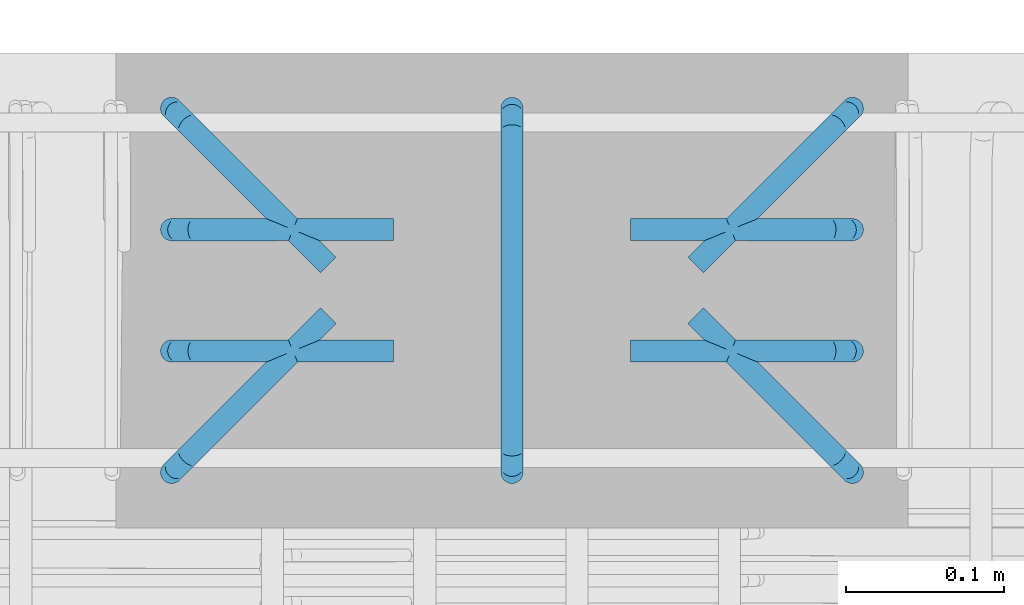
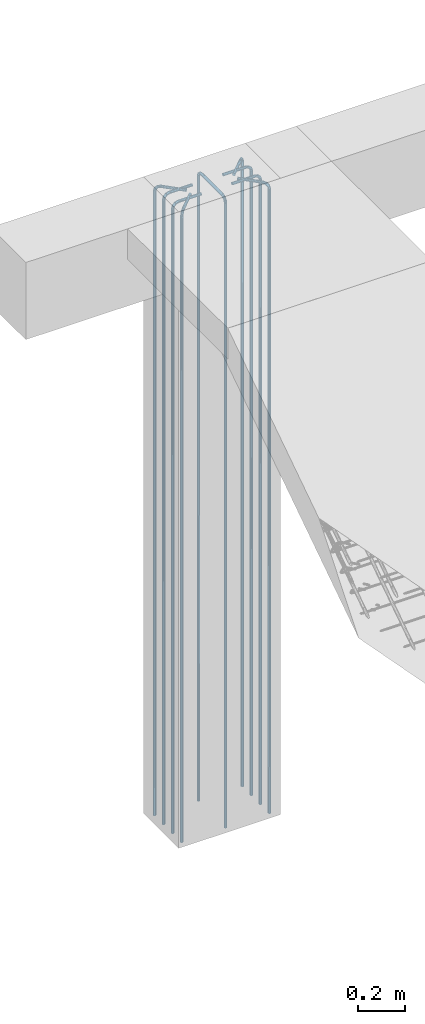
# One storey, part 7 of 24: 1 reinforcing bar.
"""IFC2X3 building model written with IfcOpenShell, lengths in metres."""

from ifc_helpers import new_model, entity, si_unit, direction, frame, origin, place, context, subcontext, project, spatial, shape, source, transform, mapped, element, save


model = new_model("IFC2X3")

# Units and contexts
model_context = context("Model", 3, precision=0.0, world=origin(), true_north=direction((0.0, 1.0)))
plan_context = context("Plan", 3, precision=0.0, world=origin(), true_north=direction((0.0, 1.0)))
body_context = subcontext(model_context, "Body", "Model", "MODEL_VIEW", scale=1.0)
ifc_project = project(units=[si_unit("LENGTHUNIT", "METRE"), si_unit("AREAUNIT", "SQUARE_METRE"), si_unit("VOLUMEUNIT", "CUBIC_METRE"), si_unit("PLANEANGLEUNIT", "RADIAN"), si_unit("THERMODYNAMICTEMPERATUREUNIT", "DEGREE_CELSIUS"), si_unit("FORCEUNIT", "NEWTON"), si_unit("MASSUNIT", "GRAM", prefix="KILO")], contexts=[model_context, plan_context])

# Site, building, storey
placement = place(None, origin())
site = spatial("IfcSite", under=ifc_project, at=placement, Name="Default Site", CompositionType="ELEMENT")
building = spatial("IfcBuilding", under=site, at=placement, Name="Default Building", CompositionType="ELEMENT")
storey_placement = place(placement, frame((0.0, 0.0, 3.3), z_axis=(1.0, 0.0, 0.0), x_axis=(0.0, 0.0, 1.0)))
storey = spatial("IfcBuildingStorey", under=building, at=storey_placement, Name="Piano 2", CompositionType="ELEMENT", Elevation=3.3)

# Reinforcing bar
shared_shape_1 = source(origin(), body_context, None, "AdvancedSweptSolid", [
    entity("IfcSweptDiskSolid", entity("IfcCompositeCurve", [entity("IfcCompositeCurveSegment", "CONTINUOUS", True, entity("IfcPolyline", [entity("IfcCartesianPoint", [0.0, 0.0, 0.0]), entity("IfcCartesianPoint", [0.0, 0.0, 3.237]), entity("IfcCartesianPoint", [0.002653, 0.002653, 3.251]), entity("IfcCartesianPoint", [0.009899, 0.009899, 3.261249]), entity("IfcCartesianPoint", [0.019799, 0.019799, 3.265]), entity("IfcCartesianPoint", [0.098995, 0.098995, 3.265])]))], False), 0.007, 0.0, 0.0),
])
shared_shape_2 = source(origin(), body_context, None, "MappedRepresentation", [mapped(shared_shape_1, transform((-4.215, 4.885, 0.0)))])
shared_shape_3 = source(origin(), body_context, None, "AdvancedSweptSolid", [
    entity("IfcSweptDiskSolid", entity("IfcCompositeCurve", [entity("IfcCompositeCurveSegment", "CONTINUOUS", True, entity("IfcPolyline", [entity("IfcCartesianPoint", [0.0, 0.0, 0.0]), entity("IfcCartesianPoint", [0.0, 0.0, 3.237]), entity("IfcCartesianPoint", [-0.002653, 0.002653, 3.251]), entity("IfcCartesianPoint", [-0.009899, 0.009899, 3.261249]), entity("IfcCartesianPoint", [-0.019799, 0.019799, 3.265]), entity("IfcCartesianPoint", [-0.098995, 0.098995, 3.265])]))], False), 0.007, 0.0, 0.0),
])
shared_shape_4 = source(origin(), body_context, None, "MappedRepresentation", [mapped(shared_shape_3, transform((-3.785, 4.885, 0.0)))])
shared_shape_5 = source(origin(), body_context, None, "AdvancedSweptSolid", [
    entity("IfcSweptDiskSolid", entity("IfcCompositeCurve", [entity("IfcCompositeCurveSegment", "CONTINUOUS", True, entity("IfcPolyline", [entity("IfcCartesianPoint", [0.0, 0.0, 0.0]), entity("IfcCartesianPoint", [0.0, 0.0, 3.237]), entity("IfcCartesianPoint", [-0.002653, -0.002653, 3.251]), entity("IfcCartesianPoint", [-0.009899, -0.009899, 3.261249]), entity("IfcCartesianPoint", [-0.019799, -0.019799, 3.265]), entity("IfcCartesianPoint", [-0.098995, -0.098995, 3.265])]))], False), 0.007, 0.0, 0.0),
])
shared_shape_6 = source(origin(), body_context, None, "MappedRepresentation", [mapped(shared_shape_5, transform((-3.785, 5.115, 0.0)))])
shared_shape_7 = source(origin(), body_context, None, "AdvancedSweptSolid", [
    entity("IfcSweptDiskSolid", entity("IfcCompositeCurve", [entity("IfcCompositeCurveSegment", "CONTINUOUS", True, entity("IfcPolyline", [entity("IfcCartesianPoint", [0.0, 0.0, 0.0]), entity("IfcCartesianPoint", [0.0, 0.0, 3.237]), entity("IfcCartesianPoint", [0.002653, -0.002653, 3.251]), entity("IfcCartesianPoint", [0.009899, -0.009899, 3.261249]), entity("IfcCartesianPoint", [0.019799, -0.019799, 3.265]), entity("IfcCartesianPoint", [0.098995, -0.098995, 3.265])]))], False), 0.007, 0.0, 0.0),
])
shared_shape_8 = source(origin(), body_context, None, "MappedRepresentation", [mapped(shared_shape_7, transform((-4.215, 5.115, 0.0)))])
shared_shape_9 = source(origin(), body_context, None, "AdvancedSweptSolid", [
    entity("IfcSweptDiskSolid", entity("IfcCompositeCurve", [entity("IfcCompositeCurveSegment", "CONTINUOUS", True, entity("IfcPolyline", [entity("IfcCartesianPoint", [0.0, 0.0, 0.0]), entity("IfcCartesianPoint", [0.0, 0.0, 3.237]), entity("IfcCartesianPoint", [0.0, 0.003751, 3.251]), entity("IfcCartesianPoint", [0.0, 0.014, 3.261249]), entity("IfcCartesianPoint", [0.0, 0.028, 3.265]), entity("IfcCartesianPoint", [0.0, 0.14, 3.265])]))], False), 0.007, 0.0, 0.0),
])
shared_shape_10 = source(origin(), body_context, None, "MappedRepresentation", [mapped(shared_shape_9, transform((-4.0, 4.885, 0.0)))])
shared_shape_11 = source(origin(), body_context, None, "AdvancedSweptSolid", [
    entity("IfcSweptDiskSolid", entity("IfcCompositeCurve", [entity("IfcCompositeCurveSegment", "CONTINUOUS", True, entity("IfcPolyline", [entity("IfcCartesianPoint", [0.0, 0.0, 0.0]), entity("IfcCartesianPoint", [0.0, 0.0, 3.237]), entity("IfcCartesianPoint", [-0.003751, 0.0, 3.251]), entity("IfcCartesianPoint", [-0.014, 0.0, 3.261249]), entity("IfcCartesianPoint", [-0.028, 0.0, 3.265]), entity("IfcCartesianPoint", [-0.14, 0.0, 3.265])]))], False), 0.007, 0.0, 0.0),
])
shared_shape_12 = source(origin(), body_context, None, "MappedRepresentation", [mapped(shared_shape_11, transform((-3.785, 4.961667, 0.0)))])
shared_shape_13 = source(origin(), body_context, None, "AdvancedSweptSolid", [
    entity("IfcSweptDiskSolid", entity("IfcCompositeCurve", [entity("IfcCompositeCurveSegment", "CONTINUOUS", True, entity("IfcPolyline", [entity("IfcCartesianPoint", [0.0, 0.0, 0.0]), entity("IfcCartesianPoint", [0.0, 0.0, 3.237]), entity("IfcCartesianPoint", [-0.003751, 0.0, 3.251]), entity("IfcCartesianPoint", [-0.014, 0.0, 3.261249]), entity("IfcCartesianPoint", [-0.028, 0.0, 3.265]), entity("IfcCartesianPoint", [-0.14, 0.0, 3.265])]))], False), 0.007, 0.0, 0.0),
])
shared_shape_14 = source(origin(), body_context, None, "MappedRepresentation", [mapped(shared_shape_13, transform((-3.785, 5.038333, 0.0)))])
shared_shape_15 = source(origin(), body_context, None, "AdvancedSweptSolid", [
    entity("IfcSweptDiskSolid", entity("IfcCompositeCurve", [entity("IfcCompositeCurveSegment", "CONTINUOUS", True, entity("IfcPolyline", [entity("IfcCartesianPoint", [0.0, 0.0, 0.0]), entity("IfcCartesianPoint", [0.0, 0.0, 3.237]), entity("IfcCartesianPoint", [0.0, -0.003751, 3.251]), entity("IfcCartesianPoint", [0.0, -0.014, 3.261249]), entity("IfcCartesianPoint", [0.0, -0.028, 3.265]), entity("IfcCartesianPoint", [0.0, -0.14, 3.265])]))], False), 0.007, 0.0, 0.0),
])
shared_shape_16 = source(origin(), body_context, None, "MappedRepresentation", [mapped(shared_shape_15, transform((-4.0, 5.115, 0.0)))])
shared_shape_17 = source(origin(), body_context, None, "AdvancedSweptSolid", [
    entity("IfcSweptDiskSolid", entity("IfcCompositeCurve", [entity("IfcCompositeCurveSegment", "CONTINUOUS", True, entity("IfcPolyline", [entity("IfcCartesianPoint", [0.0, 0.0, 0.0]), entity("IfcCartesianPoint", [0.0, 0.0, 3.237]), entity("IfcCartesianPoint", [0.003751, 0.0, 3.251]), entity("IfcCartesianPoint", [0.014, 0.0, 3.261249]), entity("IfcCartesianPoint", [0.028, 0.0, 3.265]), entity("IfcCartesianPoint", [0.14, 0.0, 3.265])]))], False), 0.007, 0.0, 0.0),
])
shared_shape_18 = source(origin(), body_context, None, "MappedRepresentation", [mapped(shared_shape_17, transform((-4.215, 5.038333, 0.0)))])
shared_shape_19 = source(origin(), body_context, None, "AdvancedSweptSolid", [
    entity("IfcSweptDiskSolid", entity("IfcCompositeCurve", [entity("IfcCompositeCurveSegment", "CONTINUOUS", True, entity("IfcPolyline", [entity("IfcCartesianPoint", [0.0, 0.0, 0.0]), entity("IfcCartesianPoint", [0.0, 0.0, 3.237]), entity("IfcCartesianPoint", [0.003751, 0.0, 3.251]), entity("IfcCartesianPoint", [0.014, 0.0, 3.261249]), entity("IfcCartesianPoint", [0.028, 0.0, 3.265]), entity("IfcCartesianPoint", [0.14, 0.0, 3.265])]))], False), 0.007, 0.0, 0.0),
])
shared_shape_20 = source(origin(), body_context, None, "MappedRepresentation", [mapped(shared_shape_19, transform((-4.215, 4.961667, 0.0)))])
element("IfcReinforcingBar", 1, at=placement, inside=storey, Name="Arm Principale; Pilastro:10 [Piano:2]", BarLength=33.949853, BarRole="MAIN", BarSurface="TEXTURED", NominalDiameter=0.014, shapes=[
    shape(body_context, None, "MappedRepresentation", [mapped(shared_shape_2, transform((0.0, 0.0, 0.0))), mapped(shared_shape_4, transform((0.0, 0.0, 0.0))), mapped(shared_shape_6, transform((0.0, 0.0, 0.0))), mapped(shared_shape_8, transform((0.0, 0.0, 0.0))), mapped(shared_shape_10, transform((0.0, 0.0, 0.0))), mapped(shared_shape_12, transform((0.0, 0.0, 0.0))), mapped(shared_shape_14, transform((0.0, 0.0, 0.0))), mapped(shared_shape_16, transform((0.0, 0.0, 0.0))), mapped(shared_shape_18, transform((0.0, 0.0, 0.0))), mapped(shared_shape_20, transform((0.0, 0.0, 0.0)))]),
])

save(model, "model.ifc")
